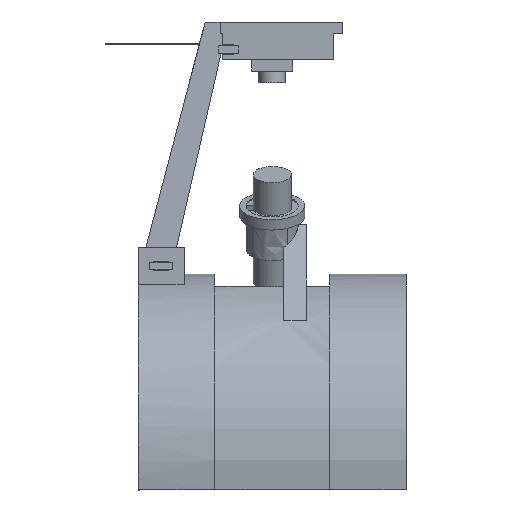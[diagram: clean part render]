
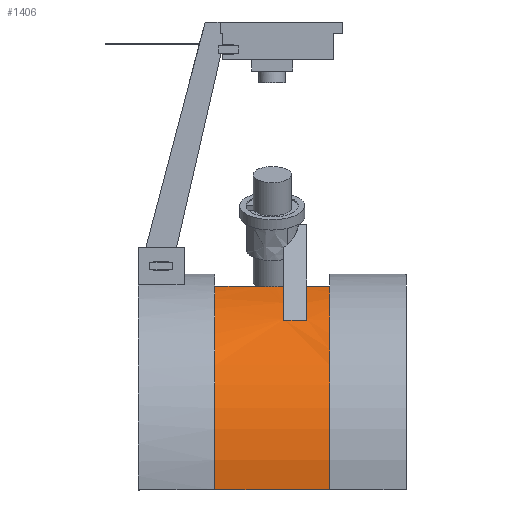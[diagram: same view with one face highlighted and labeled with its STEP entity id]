
A CAD part, left-side view. The second image highlights one B-rep face of the part: STEP entity #1406.
In plain terms, the highlighted free-form (B-spline) face has degree [2, 1] with [6, 2] control points.
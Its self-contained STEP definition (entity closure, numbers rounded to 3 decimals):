
#406=CARTESIAN_POINT('',(-17.492,0.,44.699));
#407=VERTEX_POINT('',#406);
#412=CARTESIAN_POINT('',(-17.,-2.256,44.889));
#413=CARTESIAN_POINT('',(-17.121,-1.995,44.843));
#414=CARTESIAN_POINT('',(-17.306,-1.444,44.772));
#415=CARTESIAN_POINT('',(-17.43,-0.873,44.724));
#416=CARTESIAN_POINT('',(-17.492,-0.292,44.7));
#417=CARTESIAN_POINT('',(-17.492,0.,44.699));
#418=(BOUNDED_CURVE()B_SPLINE_CURVE(2,(#417,#416,#415,#414,#413,#412),.UNSPECIFIED.,.U.,.U.)B_SPLINE_CURVE_WITH_KNOTS((3,1,1,1,3),(0.0,0.25,0.5,0.75,1.0),.UNSPECIFIED.)CURVE()GEOMETRIC_REPRESENTATION_ITEM()RATIONAL_B_SPLINE_CURVE((1.0,0.993,0.987,0.987,0.993,1.0))REPRESENTATION_ITEM(''));
#419=CARTESIAN_POINT('',(-17.,-2.256,44.889));
#420=VERTEX_POINT('',#419);
#421=EDGE_CURVE('',#407,#420,#418,.T.);
#531=CARTESIAN_POINT('',(-17.,2.256,44.889));
#532=CARTESIAN_POINT('',(-17.121,1.995,44.843));
#533=CARTESIAN_POINT('',(-17.306,1.444,44.772));
#534=CARTESIAN_POINT('',(-17.43,0.873,44.724));
#535=CARTESIAN_POINT('',(-17.492,0.292,44.7));
#536=(BOUNDED_CURVE()B_SPLINE_CURVE(2,(#417,#535,#534,#533,#532,#531),.UNSPECIFIED.,.U.,.U.)B_SPLINE_CURVE_WITH_KNOTS((3,1,1,1,3),(0.0,0.25,0.5,0.75,1.0),.UNSPECIFIED.)CURVE()GEOMETRIC_REPRESENTATION_ITEM()RATIONAL_B_SPLINE_CURVE((1.0,0.993,0.987,0.987,0.993,1.0))REPRESENTATION_ITEM(''));
#537=CARTESIAN_POINT('',(-17.,2.256,44.889));
#538=VERTEX_POINT('',#537);
#539=EDGE_CURVE('',#407,#538,#536,.T.);
#862=CARTESIAN_POINT('',(-31.413,-9.0,36.293));
#863=VERTEX_POINT('',#862);
#875=CARTESIAN_POINT('',(-25.642,-9.0,40.577));
#877=VERTEX_POINT('',#875);
#880=CARTESIAN_POINT('',(-25.642,-9.0,40.577));
#881=CARTESIAN_POINT('',(-26.402,-9.0,40.097));
#882=CARTESIAN_POINT('',(-27.885,-9.0,39.08));
#883=CARTESIAN_POINT('',(-29.33,-9.0,38.007));
#884=CARTESIAN_POINT('',(-30.733,-9.0,36.882));
#885=(BOUNDED_CURVE()B_SPLINE_CURVE(2,(#862,#884,#883,#882,#881,#880),.UNSPECIFIED.,.U.,.U.)B_SPLINE_CURVE_WITH_KNOTS((3,1,1,1,3),(0.0,0.25,0.5,0.75,1.0),.UNSPECIFIED.)CURVE()GEOMETRIC_REPRESENTATION_ITEM()RATIONAL_B_SPLINE_CURVE((1.0,0.999,0.999,0.999,0.999,1.0))REPRESENTATION_ITEM(''));
#886=EDGE_CURVE('',#863,#877,#885,.T.);
#927=CARTESIAN_POINT('',(-25.642,-3.0,40.577));
#928=VERTEX_POINT('',#927);
#931=DIRECTION('',(0.,1.0,0.));
#932=VECTOR('',#931,6.0);
#933=LINE('',#875,#932);
#934=EDGE_CURVE('',#877,#928,#933,.T.);
#948=CARTESIAN_POINT('',(-31.413,-3.0,36.293));
#949=VERTEX_POINT('',#948);
#954=DIRECTION('',(0.,-1.0,0.));
#955=VECTOR('',#954,6.0);
#956=LINE('',#948,#955);
#957=EDGE_CURVE('',#949,#863,#956,.T.);
#965=CARTESIAN_POINT('',(-25.642,-3.0,40.577));
#966=CARTESIAN_POINT('',(-26.402,-3.0,40.097));
#967=CARTESIAN_POINT('',(-27.885,-3.0,39.08));
#968=CARTESIAN_POINT('',(-29.33,-3.0,38.007));
#969=CARTESIAN_POINT('',(-30.733,-3.0,36.882));
#970=(BOUNDED_CURVE()B_SPLINE_CURVE(2,(#948,#969,#968,#967,#966,#965),.UNSPECIFIED.,.U.,.U.)B_SPLINE_CURVE_WITH_KNOTS((3,1,1,1,3),(0.0,0.25,0.5,0.75,1.0),.UNSPECIFIED.)CURVE()GEOMETRIC_REPRESENTATION_ITEM()RATIONAL_B_SPLINE_CURVE((1.0,0.999,0.999,0.999,0.999,1.0))REPRESENTATION_ITEM(''));
#971=EDGE_CURVE('',#949,#928,#970,.T.);
#1099=CARTESIAN_POINT('',(-17.,-15.,44.889));
#1102=VERTEX_POINT('',#1099);
#1157=CARTESIAN_POINT('',(-17.,15.,44.889));
#1158=VERTEX_POINT('',#1157);
#1334=DIRECTION('',(0.,1.0,0.));
#1335=VECTOR('',#1334,12.744);
#1336=CARTESIAN_POINT('',(-17.,2.256,44.889));
#1337=LINE('',#1336,#1335);
#1338=EDGE_CURVE('',#538,#1158,#1337,.T.);
#1347=VECTOR('',#1334,12.744);
#1348=LINE('',#1099,#1347);
#1349=EDGE_CURVE('',#1102,#420,#1348,.T.);
#1355=CARTESIAN_POINT('',(-47.271,-15.,-8.335));
#1356=CARTESIAN_POINT('',(-47.271,15.,-8.335));
#1357=CARTESIAN_POINT('',(-48.681,-15.,-0.338));
#1358=CARTESIAN_POINT('',(-48.681,15.,-0.338));
#1359=CARTESIAN_POINT('',(-45.999,-15.,16.214));
#1360=CARTESIAN_POINT('',(-45.999,15.,16.214));
#1361=CARTESIAN_POINT('',(-37.449,-15.,31.247));
#1362=CARTESIAN_POINT('',(-37.449,15.,31.247));
#1363=CARTESIAN_POINT('',(-24.594,-15.,42.013));
#1364=CARTESIAN_POINT('',(-24.594,15.,42.013));
#1365=CARTESIAN_POINT('',(-17.,-15.,44.889));
#1366=CARTESIAN_POINT('',(-17.,15.,44.889));
#1367=(BOUNDED_SURFACE()B_SPLINE_SURFACE(2,1,((#1366,#1365),(#1364,#1363),(#1362,#1361),(#1360,#1359),(#1358,#1357),(#1356,#1355)),.UNSPECIFIED.,.U.,.U.,.U.)B_SPLINE_SURFACE_WITH_KNOTS((3,1,1,1,3),(2,2),(0.0,0.25,0.5,0.75,1.0),(0.0,1.0),.UNSPECIFIED.)GEOMETRIC_REPRESENTATION_ITEM()RATIONAL_B_SPLINE_SURFACE(((1.0,1.0),(0.943,0.943),(0.885,0.885),(0.885,0.885),(0.943,0.943),(1.0,1.0)))REPRESENTATION_ITEM('')SURFACE());
#1368=ORIENTED_EDGE('',*,*,#886,.F.);
#1369=ORIENTED_EDGE('',*,*,#934,.F.);
#1370=ORIENTED_EDGE('',*,*,#971,.T.);
#1371=ORIENTED_EDGE('',*,*,#957,.F.);
#1372=EDGE_LOOP('',(#1371,#1370,#1369,#1368));
#1373=FACE_BOUND('',#1372,.T.);
#1374=ORIENTED_EDGE('',*,*,#421,.F.);
#1375=ORIENTED_EDGE('',*,*,#1349,.T.);
#1376=CARTESIAN_POINT('',(-17.,-15.,44.889));
#1377=CARTESIAN_POINT('',(-24.594,-15.,42.013));
#1378=CARTESIAN_POINT('',(-37.449,-15.,31.247));
#1379=CARTESIAN_POINT('',(-45.999,-15.,16.214));
#1380=CARTESIAN_POINT('',(-48.681,-15.,-0.338));
#1381=CARTESIAN_POINT('',(-47.271,-15.,-8.335));
#1382=(BOUNDED_CURVE()B_SPLINE_CURVE(2,(#1381,#1380,#1379,#1378,#1377,#1376),.UNSPECIFIED.,.U.,.U.)B_SPLINE_CURVE_WITH_KNOTS((3,1,1,1,3),(0.0,0.25,0.5,0.75,1.0),.UNSPECIFIED.)CURVE()GEOMETRIC_REPRESENTATION_ITEM()RATIONAL_B_SPLINE_CURVE((1.0,0.943,0.885,0.885,0.943,1.0))REPRESENTATION_ITEM(''));
#1383=VERTEX_POINT('',#1381);
#1384=EDGE_CURVE('',#1383,#1102,#1382,.T.);
#1385=ORIENTED_EDGE('',*,*,#1384,.T.);
#1386=DIRECTION('',(0.,-1.0,0.));
#1387=VECTOR('',#1386,30.);
#1388=CARTESIAN_POINT('',(-47.271,15.,-8.335));
#1389=LINE('',#1388,#1387);
#1390=VERTEX_POINT('',#1388);
#1391=EDGE_CURVE('',#1390,#1383,#1389,.T.);
#1392=ORIENTED_EDGE('',*,*,#1391,.T.);
#1393=CARTESIAN_POINT('',(-17.,15.,44.889));
#1394=CARTESIAN_POINT('',(-24.594,15.,42.013));
#1395=CARTESIAN_POINT('',(-37.449,15.,31.247));
#1396=CARTESIAN_POINT('',(-45.999,15.,16.214));
#1397=CARTESIAN_POINT('',(-48.681,15.,-0.338));
#1398=CARTESIAN_POINT('',(-47.271,15.,-8.335));
#1399=(BOUNDED_CURVE()B_SPLINE_CURVE(2,(#1398,#1397,#1396,#1395,#1394,#1393),.UNSPECIFIED.,.U.,.U.)B_SPLINE_CURVE_WITH_KNOTS((3,1,1,1,3),(0.0,0.25,0.5,0.75,1.0),.UNSPECIFIED.)CURVE()GEOMETRIC_REPRESENTATION_ITEM()RATIONAL_B_SPLINE_CURVE((1.0,0.943,0.885,0.885,0.943,1.0))REPRESENTATION_ITEM(''));
#1400=EDGE_CURVE('',#1390,#1158,#1399,.T.);
#1401=ORIENTED_EDGE('',*,*,#1400,.F.);
#1402=ORIENTED_EDGE('',*,*,#1338,.T.);
#1403=ORIENTED_EDGE('',*,*,#539,.T.);
#1404=EDGE_LOOP('',(#1403,#1402,#1401,#1392,#1385,#1375,#1374));
#1405=FACE_BOUND('',#1404,.T.);
#1406=ADVANCED_FACE('',(#1405,#1373),#1367,.T.);
